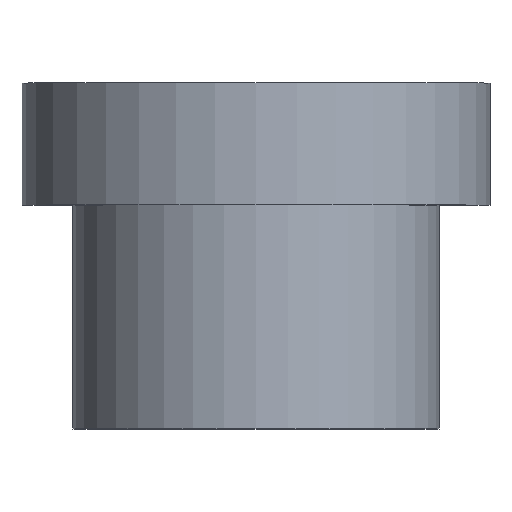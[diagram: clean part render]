
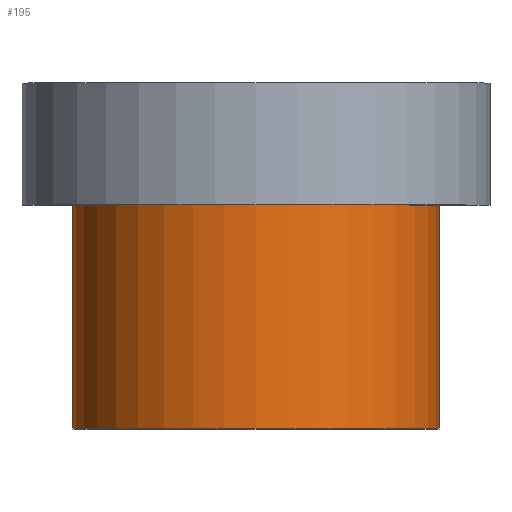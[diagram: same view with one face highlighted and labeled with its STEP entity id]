
A CAD part, top view. The second image highlights one B-rep face of the part: STEP entity #195.
In plain terms, the highlighted cylindrical face has radius 9 mm (diameter 18 mm), a full revolution.
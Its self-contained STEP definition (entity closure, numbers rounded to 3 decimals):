
#32=ORIENTED_EDGE('',*,*,#50,.T.);
#33=ORIENTED_EDGE('',*,*,#49,.F.);
#49=EDGE_CURVE('',#59,#59,#69,.T.);
#50=EDGE_CURVE('',#60,#60,#70,.T.);
#59=VERTEX_POINT('',#280);
#60=VERTEX_POINT('',#283);
#69=CIRCLE('',#213,9.);
#70=CIRCLE('',#215,9.);
#82=EDGE_LOOP('',(#32));
#83=EDGE_LOOP('',(#33));
#102=FACE_BOUND('',#82,.T.);
#103=FACE_BOUND('',#83,.T.);
#117=CYLINDRICAL_SURFACE('',#214,9.);
#195=ADVANCED_FACE('',(#102,#103),#117,.T.);
#213=AXIS2_PLACEMENT_3D('',#279,#241,#242);
#214=AXIS2_PLACEMENT_3D('',#281,#243,#244);
#215=AXIS2_PLACEMENT_3D('',#282,#245,#246);
#241=DIRECTION('',(0.,-1.,0.));
#242=DIRECTION('',(0.,0.,-1.));
#243=DIRECTION('',(0.,-1.,0.));
#244=DIRECTION('',(0.,0.,-1.));
#245=DIRECTION('',(0.,-1.,0.));
#246=DIRECTION('',(0.,0.,-1.));
#279=CARTESIAN_POINT('',(0.,0.,0.));
#280=CARTESIAN_POINT('',(0.,0.,-9.));
#281=CARTESIAN_POINT('',(0.,0.,0.));
#282=CARTESIAN_POINT('',(0.,11.,0.));
#283=CARTESIAN_POINT('',(0.,11.,-9.));
